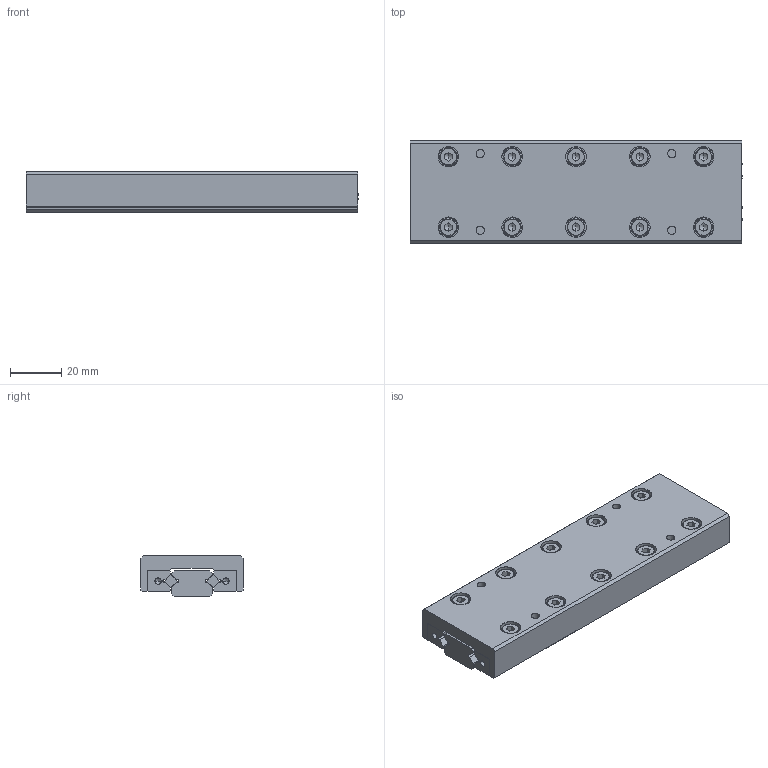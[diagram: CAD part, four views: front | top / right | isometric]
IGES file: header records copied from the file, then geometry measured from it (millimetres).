
Global section: file name: No Iges File Name specified; native system: AutoDesk Inventor R10; preprocessor: AutoDesk Inventor Iges Exporter R10; author: No Author specified; organization: No Organization specified; date: 20101224.112714; units: millimetre
Bounding box: 130 x 40 x 16 mm (x, y, z)
Surface area: 33210.6 mm2 (no closed solid volume)
Topology: 0 solids, 0 shells, 483 faces, 2948 edges, 2920 vertices
Faces by surface type: bspline 483
